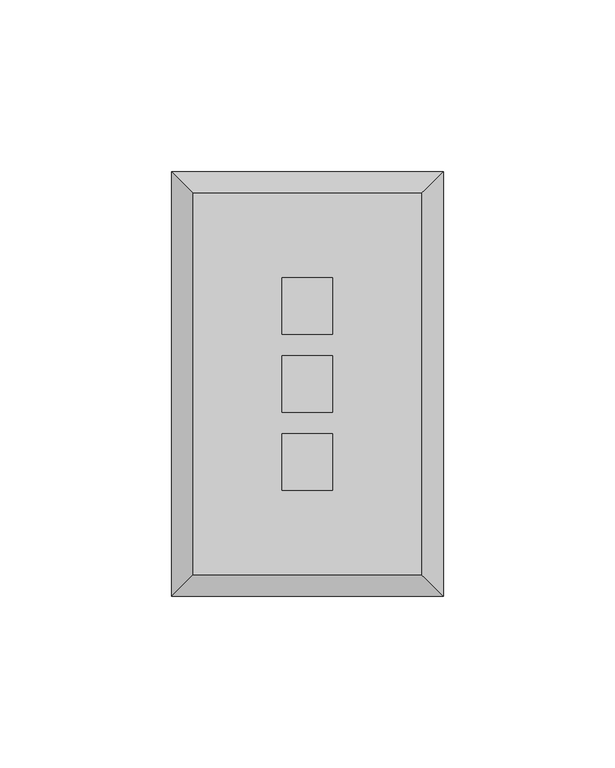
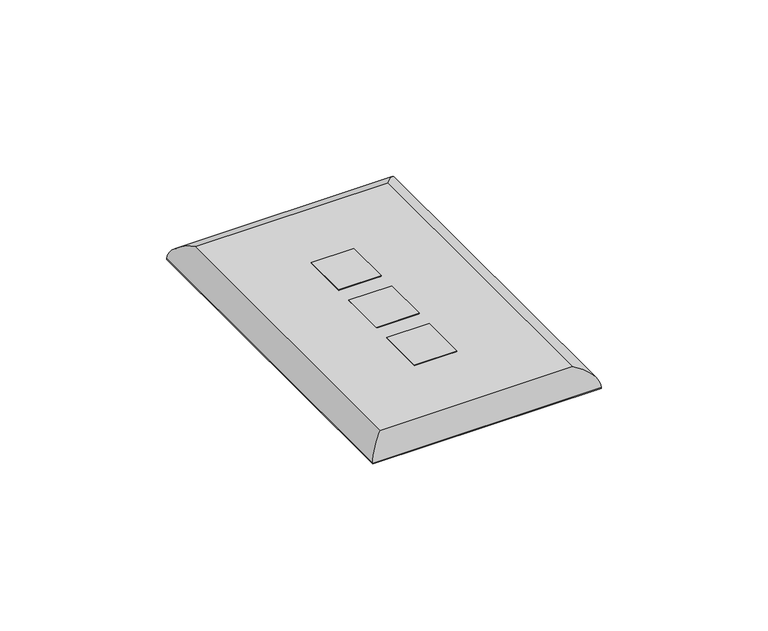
"""IFC4 building model written with IfcOpenShell, lengths in millimetres: electric appliance geometry, Data_Device-Work_Area-Leviton-QuickPort-Wallplate : 3 Ports, Single Gang, Midsize."""

import ifcopenshell
import ifcopenshell.guid

model = None  # the IFC model being written
_history = None  # IfcOwnerHistory: only IFC2X3 demands one
_inside = {}  # id of a spatial element -> (the spatial element, [elements in it])
_under = {}  # id of a project, library or spatial element -> (it, [spatial elements below it])
_declared = {}  # id of a project -> (the project, [libraries it declares])
_typed = {}  # id of a type object -> (the type object, [elements of that type])
_made_of = {}  # id of a material, layer set ... -> (it, [elements and type objects made of it])


def new_model(schema):
    """Start an empty IFC model of exactly this schema.

    Asked for "IFC4X3", IfcOpenShell would pick the latest addendum, in which some entities
    have other attributes; the version numbers below select the first issue.
    IFC2X3 requires an IfcOwnerHistory on every rooted entity: one is made here for all.
    """
    global model, _history
    if schema == "IFC4X3":
        model = ifcopenshell.file(schema_version=(4, 3, 0, 0))
    else:
        model = ifcopenshell.file(schema=schema)
    _inside.clear()
    _under.clear()
    _declared.clear()
    _typed.clear()
    _made_of.clear()
    _history = None
    if model.schema == "IFC2X3":
        org = make("IfcOrganization", Name="unknown")
        user = make(
            "IfcPersonAndOrganization",
            ThePerson=make("IfcPerson", FamilyName="unknown"),
            TheOrganization=org,
        )
        app = make(
            "IfcApplication",
            ApplicationDeveloper=org,
            Version="unknown",
            ApplicationFullName="unknown",
            ApplicationIdentifier="unknown",
        )
        _history = make(
            "IfcOwnerHistory",
            OwningUser=user,
            OwningApplication=app,
            ChangeAction="ADDED",
            CreationDate=0,
        )
    return model


def make(cls, **values):
    """One entity of the class cls with the attributes given. An attribute that is None is left unset."""
    return model.create_entity(
        cls, **{name: value for name, value in values.items() if value is not None}
    )


def rooted(cls, **values):
    """An entity with a GlobalId (a new one), such as an element, a storey or a relation."""
    return make(cls, GlobalId=ifcopenshell.guid.new(), OwnerHistory=_history, **values)


def si_unit(unit_type, name, prefix=None):
    """IfcSIUnit, for example si_unit("LENGTHUNIT", "METRE", prefix="MILLI")."""
    return make("IfcSIUnit", UnitType=unit_type, Prefix=prefix, Name=name)


def assignment(units):
    """IfcUnitAssignment: the units of a project."""
    return None if units is None else make("IfcUnitAssignment", Units=units)


def point(xyz):
    """IfcCartesianPoint."""
    return None if xyz is None else make("IfcCartesianPoint", Coordinates=xyz)


def direction(xyz):
    """IfcDirection."""
    return None if xyz is None else make("IfcDirection", DirectionRatios=xyz)


def frame(location, z_axis=None, x_axis=None):
    """IfcAxis2Placement3D, a coordinate frame: its origin and axes. An axis left out is left unset."""
    return make(
        "IfcAxis2Placement3D",
        Location=point(location),
        Axis=direction(z_axis),
        RefDirection=direction(x_axis),
    )


def origin():
    """The frame at (0, 0, 0) with its axes left unset."""
    return frame((0.0, 0.0, 0.0))


def origin_with_axes():
    """The frame at (0, 0, 0) with the z axis (0, 0, 1) and the x axis (1, 0, 0) written out."""
    return frame((0.0, 0.0, 0.0), z_axis=(0.0, 0.0, 1.0), x_axis=(1.0, 0.0, 0.0))


def place(relative_to, where):
    """IfcLocalPlacement: puts the frame where relative to a parent placement (None: the world)."""
    return make(
        "IfcLocalPlacement", PlacementRelTo=relative_to, RelativePlacement=where
    )


def context(
    kind, dimensions, precision=None, world=None, true_north=None, identifier=None
):
    """IfcGeometricRepresentationContext, for example the 3D "Model" context."""
    return make(
        "IfcGeometricRepresentationContext",
        ContextIdentifier=identifier,
        ContextType=kind,
        CoordinateSpaceDimension=dimensions,
        Precision=precision,
        WorldCoordinateSystem=world,
        TrueNorth=true_north,
    )


def project(units=None, contexts=None):
    """IfcProject with its units and contexts."""
    return rooted(
        "IfcProject",
        Name="project",
        RepresentationContexts=contexts,
        UnitsInContext=assignment(units),
    )


def spatial(cls, under=None, at=None, **own):
    """A site, building, storey or space (cls), placed at a placement, below another one or the project."""
    s = rooted(cls, ObjectPlacement=at, **own)
    if under is not None:
        _under.setdefault(under.id(), (under, []))[1].append(s)
    return s


def polyline(points):
    """IfcPolyline through the points."""
    return make("IfcPolyline", Points=[point(p) for p in points])


def ellipse_curve(where, semi_axis1, semi_axis2):
    """IfcEllipse in the frame where."""
    return make(
        "IfcEllipse", Position=where, SemiAxis1=semi_axis1, SemiAxis2=semi_axis2
    )


def outline(outer, holes=None, kind="AREA"):
    """IfcArbitraryClosedProfileDef: a profile drawn as a closed curve; with holes, ...WithVoids."""
    if holes is None:
        return make("IfcArbitraryClosedProfileDef", ProfileType=kind, OuterCurve=outer)
    return make(
        "IfcArbitraryProfileDefWithVoids",
        ProfileType=kind,
        OuterCurve=outer,
        InnerCurves=holes,
    )


def extrude(swept, where, along, depth):
    """IfcExtrudedAreaSolid: the profile swept, set in the frame where, extruded along a direction by depth."""
    return make(
        "IfcExtrudedAreaSolid",
        SweptArea=swept,
        Position=where,
        ExtrudedDirection=direction(along),
        Depth=depth,
    )


def shape(context_of_items, identifier, shape_type, items):
    """IfcShapeRepresentation: the items that make up one representation, for example the "Body"."""
    return make(
        "IfcShapeRepresentation",
        ContextOfItems=context_of_items,
        RepresentationIdentifier=identifier,
        RepresentationType=shape_type,
        Items=items,
    )


def source(mapping_origin, context_of_items, identifier, shape_type, items):
    """IfcRepresentationMap: a shape defined once, which mapped items show again and again."""
    return make(
        "IfcRepresentationMap",
        MappingOrigin=mapping_origin,
        MappedRepresentation=shape(context_of_items, identifier, shape_type, items),
    )


def transform(
    local_origin,
    x_axis=None,
    y_axis=None,
    z_axis=None,
    scale=None,
    scale2=None,
    scale3=None,
    uniform=True,
):
    """IfcCartesianTransformationOperator3D, or its non-uniform kind. x_axis, y_axis, z_axis: its Axis1, 2, 3."""
    if uniform:
        return make(
            "IfcCartesianTransformationOperator3D",
            Axis1=direction(x_axis),
            Axis2=direction(y_axis),
            LocalOrigin=point(local_origin),
            Scale=scale,
            Axis3=direction(z_axis),
        )
    return make(
        "IfcCartesianTransformationOperator3DnonUniform",
        Axis1=direction(x_axis),
        Axis2=direction(y_axis),
        LocalOrigin=point(local_origin),
        Scale=scale,
        Axis3=direction(z_axis),
        Scale2=scale2,
        Scale3=scale3,
    )


def mapped(mapping_source, mapping_target):
    """IfcMappedItem: shows the shape of a source again, moved by a transform."""
    return make(
        "IfcMappedItem", MappingSource=mapping_source, MappingTarget=mapping_target
    )


def made_of(thing, what):
    """Note that an element or type object is made of a material, layer set ...; save() writes the relation."""
    if what is not None:
        _made_of.setdefault(what.id(), (what, []))[1].append(thing)
    return thing


def element(
    cls,
    number,
    at=None,
    inside=None,
    cuts=None,
    type_object=None,
    material=None,
    context=None,
    identifier="Body",
    shape_type=None,
    held_by="IfcProductDefinitionShape",
    body=None,
    shapes=None,
    **own,
):
    """One element of the class cls, such as IfcWall. Its Tag is "e" and its number.

    at: its placement. inside: the storey or other place that contains it. cuts: it is an
    opening in that element (IfcRelVoidsElement). A single representation is given by context,
    identifier, shape_type and body (its items); several are given by shapes. held_by: the class
    of the entity that holds the representations. save() writes the other relations.
    """
    e = rooted(cls, Tag="e%d" % number, ObjectPlacement=at, **own)
    if body is not None:
        shapes = [shape(context, identifier, shape_type, body)]
    if shapes is not None:
        e.Representation = make(held_by, Representations=shapes)
    if inside is not None:
        _inside.setdefault(inside.id(), (inside, []))[1].append(e)
    if cuts is not None:
        rooted(
            "IfcRelVoidsElement", RelatingBuildingElement=cuts, RelatedOpeningElement=e
        )
    if type_object is not None:
        _typed.setdefault(type_object.id(), (type_object, []))[1].append(e)
    return made_of(e, material)


def aggregate(whole, parts):
    """IfcRelAggregates: a whole, such as a stair, and the parts it consists of."""
    return rooted("IfcRelAggregates", RelatingObject=whole, RelatedObjects=parts)


def save(model, path):
    """Write the relations noted so far, then the file.

    IfcRelAggregates (storeys below a building ...), IfcRelContainedInSpatialStructure (elements
    in a storey), IfcRelDefinesByType, IfcRelAssociatesMaterial and IfcRelDeclares: one each for
    every whole, place, type object, material and project.
    """
    for whole, parts in _under.values():
        aggregate(whole, parts)
    for where, things in _inside.values():
        rooted(
            "IfcRelContainedInSpatialStructure",
            RelatedElements=things,
            RelatingStructure=where,
        )
    for kind, things in _typed.values():
        rooted("IfcRelDefinesByType", RelatedObjects=things, RelatingType=kind)
    for what, things in _made_of.values():
        rooted("IfcRelAssociatesMaterial", RelatedObjects=things, RelatingMaterial=what)
    for by, libraries in _declared.values():
        rooted("IfcRelDeclares", RelatingContext=by, RelatedDefinitions=libraries)
    model.write(path)


def plane_surface(at):
    """IfcPlane: the flat surface through the origin of the frame at, square to its z axis."""
    return make("IfcPlane", Position=at)


def cylinder_surface(at, radius):
    """IfcCylindricalSurface: all points at the distance radius from the z axis of the frame at."""
    return make("IfcCylindricalSurface", Position=at, Radius=radius)


def advanced_brep(points, edges, surfaces, faces):
    """IfcAdvancedBrep: a solid bounded by faces that lie on surfaces and meet in shared edges.

    An edge is (start, end): straight between two places in points (the first is 0);
    or (start, end, curve); or (start, end, curve, False) where it runs against its curve.
    A face is (place in surfaces, loops), or (place, loops, False) where it looks against
    its surface's normal. A loop lists edges by number (the first is 1), with a minus sign
    where the edge is run from its end to its start. The first loop is the outer one.
    """
    corners = [point(p) for p in points]
    vertices = [make("IfcVertexPoint", VertexGeometry=c) for c in corners]
    made = []
    for start, end, *more in edges:
        made.append(
            make(
                "IfcEdgeCurve",
                EdgeStart=vertices[start],
                EdgeEnd=vertices[end],
                EdgeGeometry=more[0] if more else make("IfcPolyline", Points=[corners[start], corners[end]]),
                SameSense=more[1] if len(more) > 1 else True,
            )
        )
    hull = []
    for where, loops, *sense in faces:
        bounds = []
        for j, loop in enumerate(loops):
            ring = [make("IfcOrientedEdge", EdgeElement=made[abs(k) - 1], Orientation=k > 0) for k in loop]
            bounds.append(
                make(
                    "IfcFaceOuterBound" if j == 0 else "IfcFaceBound",
                    Bound=make("IfcEdgeLoop", EdgeList=ring),
                    Orientation=True,
                )
            )
        hull.append(make("IfcAdvancedFace", Bounds=bounds, FaceSurface=surfaces[where], SameSense=sense[0] if sense else True))
    return make("IfcAdvancedBrep", Outer=make("IfcClosedShell", CfsFaces=hull))


def electric_appliance_4f53a3eb(model_context):
    return source(origin(), model_context, "Body", "SolidModel", [
        extrude(outline(polyline([(-15.6591, 16.4465), (-15.6591, -0.0635), (-30.3911, -0.0635), (-30.3911, 16.4465), (-15.6591, 16.4465)])), origin_with_axes(), (0.0, 0.0, 1.0), 6.35),
        extrude(outline(polyline([(-15.6591, 39.1795), (-15.6591, 22.6695), (-30.3911, 22.6695), (-30.3911, 39.1795), (-15.6591, 39.1795)])), origin_with_axes(), (0.0, 0.0, 1.0), 6.35),
        extrude(outline(polyline([(-15.6591, -6.2865), (-15.6591, -22.7965), (-30.3911, -22.7965), (-30.3911, -6.2865), (-15.6591, -6.2865)])), origin_with_axes(), (0.0, 0.0, 1.0), 6.35),
        advanced_brep(
        [(10.2489, -47.3075, 6.35), (10.2489, 63.6905, 6.35), (-56.2991, 63.6905, 6.35), (-56.2991, -47.3075, 6.35), (-30.3911, 39.1795, 6.35), (-15.6591, 39.1795, 6.35), (-15.6591, 22.6695, 6.35), (-30.3911, 22.6695, 6.35), (-30.3911, 16.4465, 6.35), (-15.6591, 16.4465, 6.35), (-15.6591, -0.0635, 6.35), (-30.3911, -0.0635, 6.35), (-30.3911, -6.2865, 6.35), (-15.6591, -6.2865, 6.35), (-15.6591, -22.7965, 6.35), (-30.3911, -22.7965, 6.35), (16.5989, 70.0405, 0.0), (16.5989, -53.6575, 0.0), (-62.6491, -53.6575, 0.0), (-62.6491, 70.0405, 0.0), (-15.6591, 39.1795, 0.0), (-30.3911, 39.1795, 0.0), (-30.3911, 22.6695, 0.0), (-15.6591, 22.6695, 0.0), (-15.6591, 16.4465, 0.0), (-30.3911, 16.4465, 0.0), (-30.3911, -0.0635, 0.0), (-15.6591, -0.0635, 0.0), (-15.6591, -6.2865, 0.0), (-30.3911, -6.2865, 0.0), (-30.3911, -22.7965, 0.0), (-15.6591, -22.7965, 0.0), (-62.6491, 70.0405, 0.254), (16.5989, 70.0405, 0.254), (-62.6491, -53.6575, 0.254), (16.5989, -53.6575, 0.254)],
        [
            (0, 1),
            (1, 2),
            (2, 3),
            (3, 0),
            (4, 5),
            (5, 6),
            (6, 7),
            (7, 4),
            (8, 9),
            (9, 10),
            (10, 11),
            (11, 8),
            (12, 13),
            (13, 14),
            (14, 15),
            (15, 12),
            (16, 17),
            (17, 18),
            (18, 19),
            (19, 16),
            (20, 21),
            (21, 22),
            (22, 23),
            (23, 20),
            (24, 25),
            (25, 26),
            (26, 27),
            (27, 24),
            (28, 29),
            (29, 30),
            (30, 31),
            (31, 28),
            (19, 32),
            (32, 33),
            (33, 16),
            (18, 34),
            (34, 32),
            (17, 35),
            (35, 34),
            (33, 35),
            (4, 21),
            (20, 5),
            (7, 22),
            (6, 23),
            (8, 25),
            (24, 9),
            (11, 26),
            (10, 27),
            (12, 29),
            (28, 13),
            (15, 30),
            (14, 31),
            (0, 35, ellipse_curve(frame((10.2489, -47.3075, -0.0052917), z_axis=(0.7071067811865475, 0.7071067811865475, 0.0), x_axis=(0.7071067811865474, -0.7071067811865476, 0.0)), 8.9877397, 6.3552917)),
            (33, 1, ellipse_curve(frame((10.2489, 63.6905, -0.0052917), z_axis=(0.7071067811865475, -0.7071067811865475, 0.0), x_axis=(-0.7071067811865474, -0.7071067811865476, 0.0)), 8.9877397, 6.3552917)),
            (3, 34, ellipse_curve(frame((-56.2991, -47.3075, -0.0052917), z_axis=(0.7071067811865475, -0.7071067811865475, 0.0), x_axis=(-0.7071067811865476, -0.7071067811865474, 0.0)), 8.9877397, 6.3552917)),
            (2, 32, ellipse_curve(frame((-56.2991, 63.6905, -0.0052917), z_axis=(-0.7071067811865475, -0.7071067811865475, 0.0), x_axis=(-0.7071067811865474, 0.7071067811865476, 0.0)), 8.9877397, 6.3552917)),
        ],
        [
            plane_surface(frame((-62.6491, 70.0405, 6.35), z_axis=(0.0, 0.0, 1.0), x_axis=(-1.0, 0.0, 0.0))),
            plane_surface(frame((-62.6491, 70.0405, 0.0), z_axis=(0.0, 0.0, -1.0), x_axis=(1.0, 0.0, 0.0))),
            plane_surface(frame((16.5989, 70.0405, 6.35), z_axis=(0.0, 1.0, 0.0), x_axis=(0.0, 0.0, -1.0))),
            plane_surface(frame((-62.6491, 70.0405, 6.35), z_axis=(-1.0, 0.0, 0.0), x_axis=(0.0, 0.0, -1.0))),
            plane_surface(frame((-62.6491, -53.6575, 6.35), z_axis=(0.0, -1.0, 0.0), x_axis=(0.0, 0.0, -1.0))),
            plane_surface(frame((16.5989, -53.6575, 6.35), z_axis=(1.0, 0.0, 0.0), x_axis=(0.0, 0.0, -1.0))),
            plane_surface(frame((-15.6591, 39.1795, 6.35), z_axis=(0.0, -1.0, 0.0), x_axis=(0.0, 0.0, -1.0))),
            plane_surface(frame((-30.3911, 39.1795, 6.35), z_axis=(1.0, 0.0, 0.0), x_axis=(0.0, 0.0, -1.0))),
            plane_surface(frame((-30.3911, 22.6695, 6.35), z_axis=(0.0, 1.0, 0.0), x_axis=(0.0, 0.0, -1.0))),
            plane_surface(frame((-15.6591, 22.6695, 6.35), z_axis=(-1.0, 0.0, 0.0), x_axis=(0.0, 0.0, -1.0))),
            plane_surface(frame((-15.6591, 16.4465, 6.35), z_axis=(0.0, -1.0, 0.0), x_axis=(0.0, 0.0, -1.0))),
            plane_surface(frame((-30.3911, 16.4465, 6.35), z_axis=(1.0, 0.0, 0.0), x_axis=(0.0, 0.0, -1.0))),
            plane_surface(frame((-30.3911, -0.0635, 6.35), z_axis=(0.0, 1.0, 0.0), x_axis=(0.0, 0.0, -1.0))),
            plane_surface(frame((-15.6591, -0.0635, 6.35), z_axis=(-1.0, 0.0, 0.0), x_axis=(0.0, 0.0, -1.0))),
            plane_surface(frame((-15.6591, -6.2865, 6.35), z_axis=(0.0, -1.0, 0.0), x_axis=(0.0, 0.0, -1.0))),
            plane_surface(frame((-30.3911, -6.2865, 6.35), z_axis=(1.0, 0.0, 0.0), x_axis=(0.0, 0.0, -1.0))),
            plane_surface(frame((-30.3911, -22.7965, 6.35), z_axis=(0.0, 1.0, 0.0), x_axis=(0.0, 0.0, -1.0))),
            plane_surface(frame((-15.6591, -22.7965, 6.35), z_axis=(-1.0, 0.0, 0.0), x_axis=(0.0, 0.0, -1.0))),
            cylinder_surface(frame((10.2489, 70.0405, -0.0052917), z_axis=(0.0, -1.0, 0.0), x_axis=(1.0, 0.0, 0.0)), 6.3552917),
            cylinder_surface(frame((16.5989, -47.3075, -0.0052917), z_axis=(-1.0, 0.0, 0.0), x_axis=(0.0, -1.0, 0.0)), 6.3552917),
            cylinder_surface(frame((-56.2991, -53.6575, -0.0052917), z_axis=(0.0, 1.0, 0.0), x_axis=(-1.0, 0.0, 0.0)), 6.3552917),
            cylinder_surface(frame((-62.6491, 63.6905, -0.0052917), z_axis=(1.0, 0.0, 0.0), x_axis=(0.0, 1.0, 0.0)), 6.3552917),
        ],
        [
            (0, [[1, 2, 3, 4], [5, 6, 7, 8], [9, 10, 11, 12], [13, 14, 15, 16]]),
            (1, [[17, 18, 19, 20], [21, 22, 23, 24], [25, 26, 27, 28], [29, 30, 31, 32]]),
            (2, [[-20, 33, 34, 35]]),
            (3, [[-19, 36, 37, -33]]),
            (4, [[-18, 38, 39, -36]]),
            (5, [[-17, -35, 40, -38]]),
            (6, [[41, -21, 42, -5]]),
            (7, [[-41, -8, 43, -22]]),
            (8, [[-43, -7, 44, -23]]),
            (9, [[-42, -24, -44, -6]]),
            (10, [[45, -25, 46, -9]]),
            (11, [[-45, -12, 47, -26]]),
            (12, [[-47, -11, 48, -27]]),
            (13, [[-46, -28, -48, -10]]),
            (14, [[49, -29, 50, -13]]),
            (15, [[-49, -16, 51, -30]]),
            (16, [[-51, -15, 52, -31]]),
            (17, [[-50, -32, -52, -14]]),
            (18, [[53, -40, 54, -1]]),
            (19, [[-53, -4, 55, -39]]),
            (20, [[-55, -3, 56, -37]]),
            (21, [[-54, -34, -56, -2]]),
        ],
    ),
        extrude(outline(polyline([(16.3449, 69.7865), (16.3449, -53.4035), (-62.3951, -53.4035), (-62.3951, 69.7865), (16.3449, 69.7865)]), holes=[polyline([(-15.6591, 39.1795), (-30.3911, 39.1795), (-30.3911, 22.6695), (-15.6591, 22.6695), (-15.6591, 39.1795)]), polyline([(-15.6591, 16.4465), (-30.3911, 16.4465), (-30.3911, -0.0635), (-15.6591, -0.0635), (-15.6591, 16.4465)]), polyline([(-15.6591, -6.2865), (-30.3911, -6.2865), (-30.3911, -22.7965), (-15.6591, -22.7965), (-15.6591, -6.2865)])]), origin_with_axes(), (0.0, 0.0, 1.0), 0.254),
    ])


if __name__ == "__main__":
    model = new_model("IFC4")
    model_context = context("Model", 3, world=origin())
    ifc_project = project(units=[si_unit("LENGTHUNIT", "METRE", prefix="MILLI")], contexts=[model_context])
    site = spatial("IfcSite", under=ifc_project)
    building = spatial("IfcBuilding", under=site)
    placement = place(None, origin())
    electric_appliance_shape = electric_appliance_4f53a3eb(model_context)
    element("IfcElectricAppliance", 1, ObjectType="Data_Device-Work_Area-Leviton-QuickPort-Wallplate : 3 Ports, Single Gang, Midsize", at=placement, inside=building, context=model_context, shape_type="MappedRepresentation", body=[
        mapped(electric_appliance_shape, transform((0.0, 0.0, 0.0), x_axis=(1.0, 0.0, 0.0), y_axis=(0.0, 1.0, 0.0), z_axis=(0.0, 0.0, 1.0))),
    ])
    save(model, "model.ifc")
